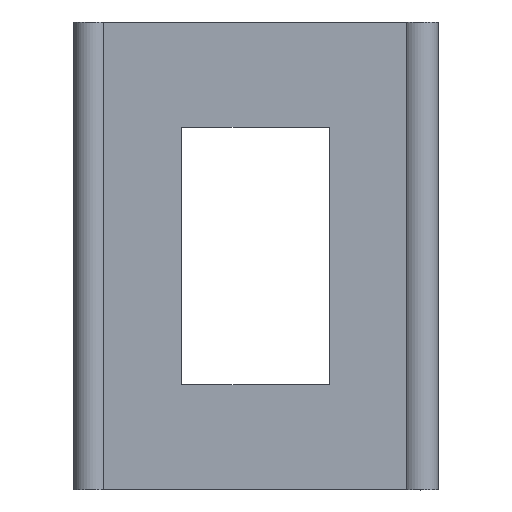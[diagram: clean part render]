
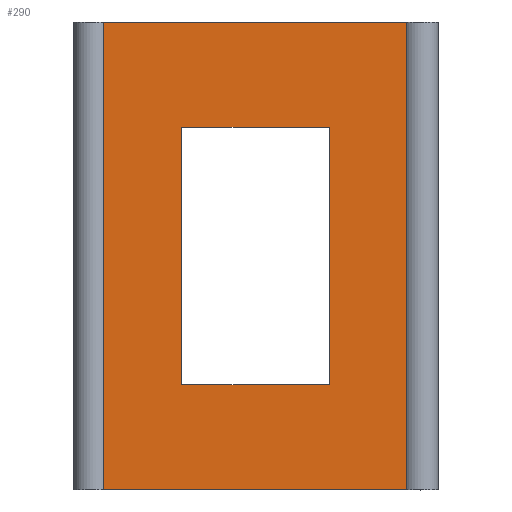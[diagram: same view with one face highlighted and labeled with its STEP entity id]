
A CAD part, top view. The second image highlights one B-rep face of the part: STEP entity #290.
In plain terms, the highlighted planar face has unit normal (0, 0, 1).
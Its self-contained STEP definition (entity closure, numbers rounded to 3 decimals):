
#22 = VERTEX_POINT('',#23);
#23 = CARTESIAN_POINT('',(1.96,-37.,2.));
#33 = PLANE('',#34);
#34 = AXIS2_PLACEMENT_3D('',#35,#36,#37);
#35 = CARTESIAN_POINT('',(0.,-37.,-2.));
#36 = DIRECTION('',(-0.,1.,0.));
#37 = DIRECTION('',(0.,0.,1.));
#49 = CYLINDRICAL_SURFACE('',#50,2.8);
#50 = AXIS2_PLACEMENT_3D('',#51,#52,#53);
#51 = CARTESIAN_POINT('',(0.,37.,0.));
#52 = DIRECTION('',(0.,-1.,0.));
#53 = DIRECTION('',(1.,0.,0.));
#61 = EDGE_CURVE('',#22,#62,#64,.T.);
#62 = VERTEX_POINT('',#63);
#63 = CARTESIAN_POINT('',(49.9,-37.,2.));
#64 = SURFACE_CURVE('',#65,(#69,#76),.PCURVE_S1.);
#65 = LINE('',#66,#67);
#66 = CARTESIAN_POINT('',(0.,-37.,2.));
#67 = VECTOR('',#68,1.);
#68 = DIRECTION('',(1.,0.,-0.));
#69 = PCURVE('',#33,#70);
#70 = DEFINITIONAL_REPRESENTATION('',(#71),#75);
#71 = LINE('',#72,#73);
#72 = CARTESIAN_POINT('',(4.,0.));
#73 = VECTOR('',#74,1.);
#74 = DIRECTION('',(0.,1.));
#75 = ( GEOMETRIC_REPRESENTATION_CONTEXT(2) 
PARAMETRIC_REPRESENTATION_CONTEXT() REPRESENTATION_CONTEXT('2D SPACE',''
  ) );
#76 = PCURVE('',#77,#82);
#77 = PLANE('',#78);
#78 = AXIS2_PLACEMENT_3D('',#79,#80,#81);
#79 = CARTESIAN_POINT('',(0.,-37.,2.));
#80 = DIRECTION('',(0.,0.,1.));
#81 = DIRECTION('',(1.,0.,-0.));
#82 = DEFINITIONAL_REPRESENTATION('',(#83),#87);
#83 = LINE('',#84,#85);
#84 = CARTESIAN_POINT('',(0.,0.));
#85 = VECTOR('',#86,1.);
#86 = DIRECTION('',(1.,0.));
#87 = ( GEOMETRIC_REPRESENTATION_CONTEXT(2) 
PARAMETRIC_REPRESENTATION_CONTEXT() REPRESENTATION_CONTEXT('2D SPACE',''
  ) );
#110 = CYLINDRICAL_SURFACE('',#111,2.9);
#111 = AXIS2_PLACEMENT_3D('',#112,#113,#114);
#112 = CARTESIAN_POINT('',(52.,37.,0.));
#113 = DIRECTION('',(0.,-1.,0.));
#114 = DIRECTION('',(1.,0.,0.));
#222 = EDGE_CURVE('',#223,#22,#225,.T.);
#223 = VERTEX_POINT('',#224);
#224 = CARTESIAN_POINT('',(1.96,37.,2.));
#225 = SURFACE_CURVE('',#226,(#230,#236),.PCURVE_S1.);
#226 = LINE('',#227,#228);
#227 = CARTESIAN_POINT('',(1.96,37.,2.));
#228 = VECTOR('',#229,1.);
#229 = DIRECTION('',(0.,-1.,0.));
#230 = PCURVE('',#49,#231);
#231 = DEFINITIONAL_REPRESENTATION('',(#232),#235);
#232 = B_SPLINE_CURVE_WITH_KNOTS('',1,(#233,#234),.UNSPECIFIED.,.F.,.F.,
  (2,2),(0.,74.),.PIECEWISE_BEZIER_KNOTS.);
#233 = CARTESIAN_POINT('',(0.796,0.));
#234 = CARTESIAN_POINT('',(0.796,74.));
#235 = ( GEOMETRIC_REPRESENTATION_CONTEXT(2) 
PARAMETRIC_REPRESENTATION_CONTEXT() REPRESENTATION_CONTEXT('2D SPACE',''
  ) );
#236 = PCURVE('',#77,#237);
#237 = DEFINITIONAL_REPRESENTATION('',(#238),#241);
#238 = B_SPLINE_CURVE_WITH_KNOTS('',1,(#239,#240),.UNSPECIFIED.,.F.,.F.,
  (2,2),(0.,74.),.PIECEWISE_BEZIER_KNOTS.);
#239 = CARTESIAN_POINT('',(1.96,74.));
#240 = CARTESIAN_POINT('',(1.96,0.));
#241 = ( GEOMETRIC_REPRESENTATION_CONTEXT(2) 
PARAMETRIC_REPRESENTATION_CONTEXT() REPRESENTATION_CONTEXT('2D SPACE',''
  ) );
#260 = PLANE('',#261);
#261 = AXIS2_PLACEMENT_3D('',#262,#263,#264);
#262 = CARTESIAN_POINT('',(0.,37.,0.));
#263 = DIRECTION('',(0.,-1.,0.));
#264 = DIRECTION('',(1.,0.,0.));
#290 = ADVANCED_FACE('',(#291,#337),#77,.T.);
#291 = FACE_BOUND('',#292,.T.);
#292 = EDGE_LOOP('',(#293,#316,#317,#318));
#293 = ORIENTED_EDGE('',*,*,#294,.F.);
#294 = EDGE_CURVE('',#223,#295,#297,.T.);
#295 = VERTEX_POINT('',#296);
#296 = CARTESIAN_POINT('',(49.9,37.,2.));
#297 = SURFACE_CURVE('',#298,(#302,#309),.PCURVE_S1.);
#298 = LINE('',#299,#300);
#299 = CARTESIAN_POINT('',(0.,37.,2.));
#300 = VECTOR('',#301,1.);
#301 = DIRECTION('',(1.,0.,-0.));
#302 = PCURVE('',#77,#303);
#303 = DEFINITIONAL_REPRESENTATION('',(#304),#308);
#304 = LINE('',#305,#306);
#305 = CARTESIAN_POINT('',(0.,74.));
#306 = VECTOR('',#307,1.);
#307 = DIRECTION('',(1.,0.));
#308 = ( GEOMETRIC_REPRESENTATION_CONTEXT(2) 
PARAMETRIC_REPRESENTATION_CONTEXT() REPRESENTATION_CONTEXT('2D SPACE',''
  ) );
#309 = PCURVE('',#260,#310);
#310 = DEFINITIONAL_REPRESENTATION('',(#311),#315);
#311 = LINE('',#312,#313);
#312 = CARTESIAN_POINT('',(0.,2.));
#313 = VECTOR('',#314,1.);
#314 = DIRECTION('',(1.,0.));
#315 = ( GEOMETRIC_REPRESENTATION_CONTEXT(2) 
PARAMETRIC_REPRESENTATION_CONTEXT() REPRESENTATION_CONTEXT('2D SPACE',''
  ) );
#316 = ORIENTED_EDGE('',*,*,#222,.T.);
#317 = ORIENTED_EDGE('',*,*,#61,.T.);
#318 = ORIENTED_EDGE('',*,*,#319,.F.);
#319 = EDGE_CURVE('',#295,#62,#320,.T.);
#320 = SURFACE_CURVE('',#321,(#325,#331),.PCURVE_S1.);
#321 = LINE('',#322,#323);
#322 = CARTESIAN_POINT('',(49.9,37.,2.));
#323 = VECTOR('',#324,1.);
#324 = DIRECTION('',(0.,-1.,0.));
#325 = PCURVE('',#77,#326);
#326 = DEFINITIONAL_REPRESENTATION('',(#327),#330);
#327 = B_SPLINE_CURVE_WITH_KNOTS('',1,(#328,#329),.UNSPECIFIED.,.F.,.F.,
  (2,2),(0.,74.),.PIECEWISE_BEZIER_KNOTS.);
#328 = CARTESIAN_POINT('',(49.9,74.));
#329 = CARTESIAN_POINT('',(49.9,0.));
#330 = ( GEOMETRIC_REPRESENTATION_CONTEXT(2) 
PARAMETRIC_REPRESENTATION_CONTEXT() REPRESENTATION_CONTEXT('2D SPACE',''
  ) );
#331 = PCURVE('',#110,#332);
#332 = DEFINITIONAL_REPRESENTATION('',(#333),#336);
#333 = B_SPLINE_CURVE_WITH_KNOTS('',1,(#334,#335),.UNSPECIFIED.,.F.,.F.,
  (2,2),(0.,74.),.PIECEWISE_BEZIER_KNOTS.);
#334 = CARTESIAN_POINT('',(8.664,0.));
#335 = CARTESIAN_POINT('',(8.664,74.));
#336 = ( GEOMETRIC_REPRESENTATION_CONTEXT(2) 
PARAMETRIC_REPRESENTATION_CONTEXT() REPRESENTATION_CONTEXT('2D SPACE',''
  ) );
#337 = FACE_BOUND('',#338,.T.);
#338 = EDGE_LOOP('',(#339,#367,#393,#419));
#339 = ORIENTED_EDGE('',*,*,#340,.T.);
#340 = EDGE_CURVE('',#341,#343,#345,.T.);
#341 = VERTEX_POINT('',#342);
#342 = CARTESIAN_POINT('',(37.7,-20.35,2.));
#343 = VERTEX_POINT('',#344);
#344 = CARTESIAN_POINT('',(14.3,-20.35,2.));
#345 = SURFACE_CURVE('',#346,(#350,#356),.PCURVE_S1.);
#346 = LINE('',#347,#348);
#347 = CARTESIAN_POINT('',(7.15,-20.35,2.));
#348 = VECTOR('',#349,1.);
#349 = DIRECTION('',(-1.,-0.,0.));
#350 = PCURVE('',#77,#351);
#351 = DEFINITIONAL_REPRESENTATION('',(#352),#355);
#352 = B_SPLINE_CURVE_WITH_KNOTS('',1,(#353,#354),.UNSPECIFIED.,.F.,.F.,
  (2,2),(-30.55,-7.15),.PIECEWISE_BEZIER_KNOTS.);
#353 = CARTESIAN_POINT('',(37.7,16.65));
#354 = CARTESIAN_POINT('',(14.3,16.65));
#355 = ( GEOMETRIC_REPRESENTATION_CONTEXT(2) 
PARAMETRIC_REPRESENTATION_CONTEXT() REPRESENTATION_CONTEXT('2D SPACE',''
  ) );
#356 = PCURVE('',#357,#362);
#357 = PLANE('',#358);
#358 = AXIS2_PLACEMENT_3D('',#359,#360,#361);
#359 = CARTESIAN_POINT('',(14.3,-20.35,-3.));
#360 = DIRECTION('',(-0.,1.,0.));
#361 = DIRECTION('',(0.,0.,1.));
#362 = DEFINITIONAL_REPRESENTATION('',(#363),#366);
#363 = B_SPLINE_CURVE_WITH_KNOTS('',1,(#364,#365),.UNSPECIFIED.,.F.,.F.,
  (2,2),(-30.55,-7.15),.PIECEWISE_BEZIER_KNOTS.);
#364 = CARTESIAN_POINT('',(5.,23.4));
#365 = CARTESIAN_POINT('',(5.,0.));
#366 = ( GEOMETRIC_REPRESENTATION_CONTEXT(2) 
PARAMETRIC_REPRESENTATION_CONTEXT() REPRESENTATION_CONTEXT('2D SPACE',''
  ) );
#367 = ORIENTED_EDGE('',*,*,#368,.T.);
#368 = EDGE_CURVE('',#343,#369,#371,.T.);
#369 = VERTEX_POINT('',#370);
#370 = CARTESIAN_POINT('',(14.3,20.35,2.));
#371 = SURFACE_CURVE('',#372,(#376,#382),.PCURVE_S1.);
#372 = LINE('',#373,#374);
#373 = CARTESIAN_POINT('',(14.3,-28.675,2.));
#374 = VECTOR('',#375,1.);
#375 = DIRECTION('',(-0.,1.,0.));
#376 = PCURVE('',#77,#377);
#377 = DEFINITIONAL_REPRESENTATION('',(#378),#381);
#378 = B_SPLINE_CURVE_WITH_KNOTS('',1,(#379,#380),.UNSPECIFIED.,.F.,.F.,
  (2,2),(8.325,49.025),.PIECEWISE_BEZIER_KNOTS.);
#379 = CARTESIAN_POINT('',(14.3,16.65));
#380 = CARTESIAN_POINT('',(14.3,57.35));
#381 = ( GEOMETRIC_REPRESENTATION_CONTEXT(2) 
PARAMETRIC_REPRESENTATION_CONTEXT() REPRESENTATION_CONTEXT('2D SPACE',''
  ) );
#382 = PCURVE('',#383,#388);
#383 = PLANE('',#384);
#384 = AXIS2_PLACEMENT_3D('',#385,#386,#387);
#385 = CARTESIAN_POINT('',(14.3,-20.35,-3.));
#386 = DIRECTION('',(1.,0.,-0.));
#387 = DIRECTION('',(0.,0.,1.));
#388 = DEFINITIONAL_REPRESENTATION('',(#389),#392);
#389 = B_SPLINE_CURVE_WITH_KNOTS('',1,(#390,#391),.UNSPECIFIED.,.F.,.F.,
  (2,2),(8.325,49.025),.PIECEWISE_BEZIER_KNOTS.);
#390 = CARTESIAN_POINT('',(5.,0.));
#391 = CARTESIAN_POINT('',(5.,-40.7));
#392 = ( GEOMETRIC_REPRESENTATION_CONTEXT(2) 
PARAMETRIC_REPRESENTATION_CONTEXT() REPRESENTATION_CONTEXT('2D SPACE',''
  ) );
#393 = ORIENTED_EDGE('',*,*,#394,.F.);
#394 = EDGE_CURVE('',#395,#369,#397,.T.);
#395 = VERTEX_POINT('',#396);
#396 = CARTESIAN_POINT('',(37.7,20.35,2.));
#397 = SURFACE_CURVE('',#398,(#402,#408),.PCURVE_S1.);
#398 = LINE('',#399,#400);
#399 = CARTESIAN_POINT('',(7.15,20.35,2.));
#400 = VECTOR('',#401,1.);
#401 = DIRECTION('',(-1.,-0.,0.));
#402 = PCURVE('',#77,#403);
#403 = DEFINITIONAL_REPRESENTATION('',(#404),#407);
#404 = B_SPLINE_CURVE_WITH_KNOTS('',1,(#405,#406),.UNSPECIFIED.,.F.,.F.,
  (2,2),(-30.55,-7.15),.PIECEWISE_BEZIER_KNOTS.);
#405 = CARTESIAN_POINT('',(37.7,57.35));
#406 = CARTESIAN_POINT('',(14.3,57.35));
#407 = ( GEOMETRIC_REPRESENTATION_CONTEXT(2) 
PARAMETRIC_REPRESENTATION_CONTEXT() REPRESENTATION_CONTEXT('2D SPACE',''
  ) );
#408 = PCURVE('',#409,#414);
#409 = PLANE('',#410);
#410 = AXIS2_PLACEMENT_3D('',#411,#412,#413);
#411 = CARTESIAN_POINT('',(14.3,20.35,-3.));
#412 = DIRECTION('',(-0.,1.,0.));
#413 = DIRECTION('',(0.,0.,1.));
#414 = DEFINITIONAL_REPRESENTATION('',(#415),#418);
#415 = B_SPLINE_CURVE_WITH_KNOTS('',1,(#416,#417),.UNSPECIFIED.,.F.,.F.,
  (2,2),(-30.55,-7.15),.PIECEWISE_BEZIER_KNOTS.);
#416 = CARTESIAN_POINT('',(5.,23.4));
#417 = CARTESIAN_POINT('',(5.,0.));
#418 = ( GEOMETRIC_REPRESENTATION_CONTEXT(2) 
PARAMETRIC_REPRESENTATION_CONTEXT() REPRESENTATION_CONTEXT('2D SPACE',''
  ) );
#419 = ORIENTED_EDGE('',*,*,#420,.F.);
#420 = EDGE_CURVE('',#341,#395,#421,.T.);
#421 = SURFACE_CURVE('',#422,(#426,#432),.PCURVE_S1.);
#422 = LINE('',#423,#424);
#423 = CARTESIAN_POINT('',(37.7,-28.675,2.));
#424 = VECTOR('',#425,1.);
#425 = DIRECTION('',(-0.,1.,0.));
#426 = PCURVE('',#77,#427);
#427 = DEFINITIONAL_REPRESENTATION('',(#428),#431);
#428 = B_SPLINE_CURVE_WITH_KNOTS('',1,(#429,#430),.UNSPECIFIED.,.F.,.F.,
  (2,2),(8.325,49.025),.PIECEWISE_BEZIER_KNOTS.);
#429 = CARTESIAN_POINT('',(37.7,16.65));
#430 = CARTESIAN_POINT('',(37.7,57.35));
#431 = ( GEOMETRIC_REPRESENTATION_CONTEXT(2) 
PARAMETRIC_REPRESENTATION_CONTEXT() REPRESENTATION_CONTEXT('2D SPACE',''
  ) );
#432 = PCURVE('',#433,#438);
#433 = PLANE('',#434);
#434 = AXIS2_PLACEMENT_3D('',#435,#436,#437);
#435 = CARTESIAN_POINT('',(37.7,-20.35,-3.));
#436 = DIRECTION('',(1.,0.,-0.));
#437 = DIRECTION('',(0.,0.,1.));
#438 = DEFINITIONAL_REPRESENTATION('',(#439),#442);
#439 = B_SPLINE_CURVE_WITH_KNOTS('',1,(#440,#441),.UNSPECIFIED.,.F.,.F.,
  (2,2),(8.325,49.025),.PIECEWISE_BEZIER_KNOTS.);
#440 = CARTESIAN_POINT('',(5.,0.));
#441 = CARTESIAN_POINT('',(5.,-40.7));
#442 = ( GEOMETRIC_REPRESENTATION_CONTEXT(2) 
PARAMETRIC_REPRESENTATION_CONTEXT() REPRESENTATION_CONTEXT('2D SPACE',''
  ) );
